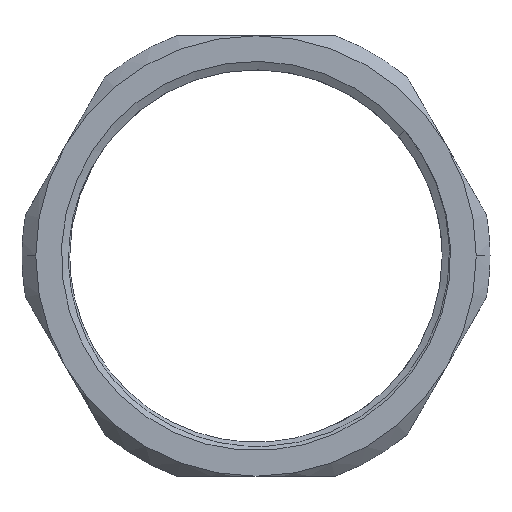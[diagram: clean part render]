
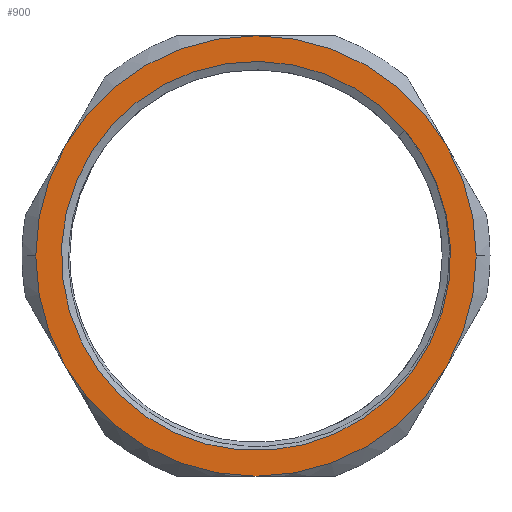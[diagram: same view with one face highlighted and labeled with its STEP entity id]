
A CAD part, left-side view. The second image highlights one B-rep face of the part: STEP entity #900.
In plain terms, the highlighted planar face has unit normal (-1, 0, 0).
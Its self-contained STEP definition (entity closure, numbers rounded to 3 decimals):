
#10=CARTESIAN_POINT('',(0.,-7.5,0.));
#20=DIRECTION('',(-1.,0.,0.));
#30=DIRECTION('',(0.,-1.,0.));
#40=AXIS2_PLACEMENT_3D('',#10,#20,#30);
#50=PLANE('',#40);
#60=CARTESIAN_POINT('',(0.,0.,
0.));
#70=DIRECTION('',(-1.,0.,-0.));
#80=DIRECTION('',(0.,1.,0.));
#90=AXIS2_PLACEMENT_3D('',#60,#70,#80);
#100=CIRCLE('',#90,7.069);
#110=CARTESIAN_POINT('',(0.,-5.403,
4.559));
#120=VERTEX_POINT('278790-1634631696-14cb19c6d37b-0 844759',#110);
#130=CARTESIAN_POINT('',(0.,-6.005,
3.73));
#140=VERTEX_POINT('278790-1634631696-14cb19c6d37b-0 844719',#130);
#150=EDGE_CURVE('278790-1634631696-14cb19c6d37b-0 844940',#120,#140,#100
,.T.);
#160=ORIENTED_EDGE('',*,*,#150,.F.);
#170=CARTESIAN_POINT('',(0.,0.,
0.));
#180=DIRECTION('',(-1.,0.,-0.));
#190=DIRECTION('',(0.,1.,0.));
#200=AXIS2_PLACEMENT_3D('',#170,#180,#190);
#210=CIRCLE('',#200,7.069);
#220=EDGE_CURVE('278790-1634631696-14cb19c6d37b-0 844764',#140,#120,#210
,.T.);
#230=ORIENTED_EDGE('',*,*,#220,.F.);
#240=EDGE_LOOP('',(#230,#160));
#250=FACE_BOUND('',#240,.T.);
#260=CARTESIAN_POINT('',(0.,0.,
0.));
#270=DIRECTION('',(1.,0.,0.));
#280=DIRECTION('',(0.,1.,0.));
#290=AXIS2_PLACEMENT_3D('',#260,#270,#280);
#300=CIRCLE('',#290,8.);
#310=CARTESIAN_POINT('',(0.,-6.928,
-4.));
#320=VERTEX_POINT('278790-1634631696-14cb19c6d37b-0 758794',#310);
#330=CARTESIAN_POINT('',(0.,0.,
-8.));
#340=VERTEX_POINT('278790-1634631696-14cb19c6d37b-0 758834',#330);
#350=EDGE_CURVE('278790-1634631696-14cb19c6d37b-0 758949',#320,#340,#300
,.T.);
#360=ORIENTED_EDGE('',*,*,#350,.F.);
#370=CARTESIAN_POINT('',(0.,0.,
0.));
#380=DIRECTION('',(1.,0.,0.));
#390=DIRECTION('',(0.,1.,0.));
#400=AXIS2_PLACEMENT_3D('',#370,#380,#390);
#410=CIRCLE('',#400,8.);
#420=CARTESIAN_POINT('',(0.,6.928,
-4.));
#430=VERTEX_POINT('278790-1634631696-14cb19c6d37b-0 759017',#420);
#440=EDGE_CURVE('278790-1634631696-14cb19c6d37b-0 759018',#340,#430,#410
,.T.);
#450=ORIENTED_EDGE('',*,*,#440,.F.);
#460=CARTESIAN_POINT('',(0.,0.,
0.));
#470=DIRECTION('',(1.,0.,0.));
#480=DIRECTION('',(0.,1.,0.));
#490=AXIS2_PLACEMENT_3D('',#460,#470,#480);
#500=CIRCLE('',#490,8.);
#510=CARTESIAN_POINT('',(0.,8.,
0.));
#520=VERTEX_POINT('',#510);
#530=EDGE_CURVE('278790-1634631696-14cb19c6d37b-0 759404',#430,#520,#500
,.T.);
#540=ORIENTED_EDGE('',*,*,#530,.F.);
#550=CARTESIAN_POINT('',(0.,6.928,
4.));
#560=VERTEX_POINT('278790-1634631696-14cb19c6d37b-0 759327',#550);
#570=EDGE_CURVE('278790-1634631696-14cb19c6d37b-0 759404',#520,#560,#500
,.T.);
#580=ORIENTED_EDGE('',*,*,#570,.F.);
#590=CARTESIAN_POINT('',(0.,0.,
0.));
#600=DIRECTION('',(1.,0.,0.));
#610=DIRECTION('',(0.,1.,0.));
#620=AXIS2_PLACEMENT_3D('',#590,#600,#610);
#630=CIRCLE('',#620,8.);
#640=CARTESIAN_POINT('',(0.,0.,8.));
#650=VERTEX_POINT('278790-1634631696-14cb19c6d37b-0 758398',#640);
#660=EDGE_CURVE('278790-1634631696-14cb19c6d37b-0 759451',#560,#650,#630
,.T.);
#670=ORIENTED_EDGE('',*,*,#660,.F.);
#680=CARTESIAN_POINT('',(0.,0.,
0.));
#690=DIRECTION('',(1.,0.,0.));
#700=DIRECTION('',(0.,1.,0.));
#710=AXIS2_PLACEMENT_3D('',#680,#690,#700);
#720=CIRCLE('',#710,8.);
#730=CARTESIAN_POINT('',(0.,-6.928,
4.));
#740=VERTEX_POINT('278790-1634631696-14cb19c6d37b-0 759058',#730);
#750=EDGE_CURVE('278790-1634631696-14cb19c6d37b-0 759244',#650,#740,#720
,.T.);
#760=ORIENTED_EDGE('',*,*,#750,.F.);
#770=CARTESIAN_POINT('',(0.,0.,
0.));
#780=DIRECTION('',(1.,0.,0.));
#790=DIRECTION('',(0.,1.,0.));
#800=AXIS2_PLACEMENT_3D('',#770,#780,#790);
#810=CIRCLE('',#800,8.);
#820=CARTESIAN_POINT('',(0.,-8.,
0.));
#830=VERTEX_POINT('',#820);
#840=EDGE_CURVE('278790-1634631696-14cb19c6d37b-0 759173',#740,#830,#810
,.T.);
#850=ORIENTED_EDGE('',*,*,#840,.F.);
#860=EDGE_CURVE('278790-1634631696-14cb19c6d37b-0 759173',#830,#320,#810
,.T.);
#870=ORIENTED_EDGE('',*,*,#860,.F.);
#880=EDGE_LOOP('',(#870,#850,#760,#670,#580,#540,#450,#360));
#890=FACE_OUTER_BOUND('',#880,.T.);
#900=ADVANCED_FACE('278790-1634631696-14cb19c6d37b-0 503559',(#250,#890)
,#50,.T.);
